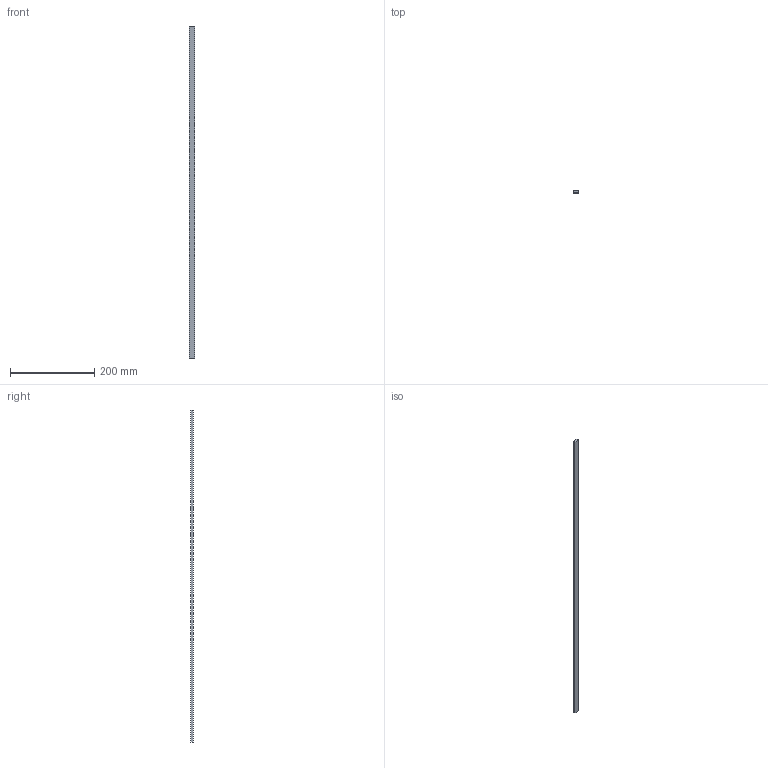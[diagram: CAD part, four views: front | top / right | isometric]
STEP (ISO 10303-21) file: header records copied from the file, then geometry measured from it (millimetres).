
FILE_DESCRIPTION (( 'STEP AP203' ), '1' );
FILE_NAME ('DN51381.STEP', '2025-10-31T07:25:53', ( '' ), ( '' ), 'SwSTEP 2.0', 'SolidWorks 2019', '' );
FILE_SCHEMA (( 'CONFIG_CONTROL_DESIGN' ));
Length unit declared in the file: millimetre
Products named in the file (1): DN51381
Bounding box: 12 x 5 x 790 mm (x, y, z)
Volume: 47400 mm3; surface area: 26980 mm2
Topology: 1 solids, 1 shells, 6 faces, 12 edges, 8 vertices
Faces by surface type: plane 6
Entity records: 233 total; most frequent: CARTESIAN_POINT 27, DIRECTION 26, ORIENTED_EDGE 24, LINE 12, EDGE_CURVE 12, VECTOR 12, PERSON_AND_ORGANIZATION 8, VERTEX_POINT 8
